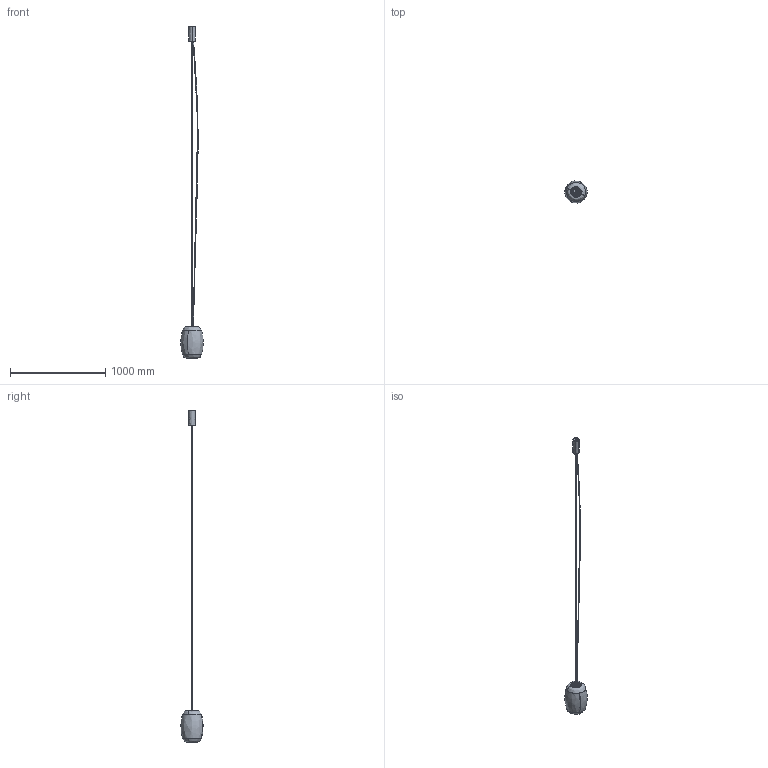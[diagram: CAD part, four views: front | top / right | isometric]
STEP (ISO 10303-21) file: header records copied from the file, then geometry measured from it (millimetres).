
FILE_DESCRIPTION(/* description */ (''),/* implementation_level */ '2;1');
FILE_NAME(/* name */ 'L181__.033',/* time_stamp */ '2025-05-16T09:45:47+02:00',/* author */ (''),/* organization */ (''),/* preprocessor_version */ 'ST-DEVELOPER v16.5',/* originating_system */ '',/* authorisation */ '');
FILE_SCHEMA (('AUTOMOTIVE_DESIGN'));
Products named in the file (60): Document; socket countersunk head screw_iso_ISO 10642 - M3 x 16 - 16N; Blocco 77; 5402.0001000.00 (fune ACC 19 fili D 1,2mm con cilindro terminale 3x3m
m)_5402.0001300.00; Blocco 76; 3200.00881000.00 (piattello chiusura ACC Ø 102mm sp 2)_3201.08810
02.00; Blocco 58; 2100.0044000.00 (equilibratore vetro Ø 90mm H 9mm)_2100.0044001.0
0; 3300.0533000.00 (distanziale circolare con asola equilibratore ALL Ø
 40mm sp 3mm)_3301.0533000.00; Blocco 80; 4504.0031000.00 (Grano EI M6 PC Steab 5068-03-6011)_4504.0031000.00; Blocco 71; 3300.0535000.00 (disco centraggio equilibratore ALL Ø 69mm sp 3mm
)_3305.0535001.00; Blocco 54; 3300.0536000.00 (vite equilibratore OTTONE Ø 10mm H 16mm con file
ttata M5)_3307.0536000.00; Blocco 70; 3300.0534000.00 (disco equilibratore per vetro ALL Ø 90mm sp 3mm)
_3307.0534000.00; Blocco 60; Cavo alimentazione; Blocco 02; 3300.0537000.00 (tubo sospensione OTTONE Ø 6mm sp 1)_3307.0537013.
00; Blocco 55; socket countersunk head screw_iso_ISO 10642 - M3 x 8 - 8N; Blocco 03; 3300.0116000.00 (testa cilindrica ALL D 101mm H 10mm)_3306.0116003.00; Blocco 72; 3300.0121000.00 (piattello di chiusura ALL D 64mm sp 1,2)_Rev.01_3305.
0121002.00; Blocco 67; 4504.0011000.00 (bloccacavo cilindrico D est. 10,5mm D int. 6,5mm NY-
PA bianco Steab 5176-16+vite metrica TCIL I M4x10 NY-PA bianco Steab 5
074-10-4-15_4504.0011000.00; 4504.0009000.00 (bloccacavo cilindrico D est. 10,5mm D int. 6,5mm NY-
PA bianco Steab 5176-16)_4504.0009000.00; Blocco 79; 4504.0010000.00 (vite metrica TCIL I M4 NY-PA Steab 5074)_4504.001001
0.00; Blocco 64; 5401.0001000.00 (molla a filo conica ACC INOX AISI 302-LL D 9,5mm sp 
0,6)_5401.0001000.00 compressa; Blocco 75; 5208.0002000.00 (magnete tondo con foro svasato M3 ACC D 15mm)_5208.0
002003.00; Blocco 68; 3100.0112000.00 (schermo anello PMMA Ø est. 100,4mm Ø int. 48
mm sp 3)_3101.0112000.00; Blocco 78; 3500.0033000.00 (schermo ovale VETRO sp 7 con decoro molato)_3512.003
3033.00 ...
Assembly tree (69 placements, depth 4):
  Document
    socket countersunk head screw_iso_ISO 10642 - M3 x 16 - 16N  x3
      Blocco 77
    5402.0001000.00 (fune ACC 19 fili D 1,2mm con cilindro terminale 3x3m
m)_5402.0001300.00
      Blocco 76
    3200.00881000.00 (piattello chiusura ACC Ø 102mm sp 2)_3201.08810
02.00
      Blocco 58
    2100.0044000.00 (equilibratore vetro Ø 90mm H 9mm)_2100.0044001.0
0
      3300.0533000.00 (distanziale circolare con asola equilibratore ALL Ø
 40mm sp 3mm)_3301.0533000.00
        Blocco 80
      4504.0031000.00 (Grano EI M6 PC Steab 5068-03-6011)_4504.0031000.00  x3
        Blocco 71
      3300.0535000.00 (disco centraggio equilibratore ALL Ø 69mm sp 3mm
)_3305.0535001.00
        Blocco 54
      3300.0536000.00 (vite equilibratore OTTONE Ø 10mm H 16mm con file
ttata M5)_3307.0536000.00
        Blocco 70
      3300.0534000.00 (disco equilibratore per vetro ALL Ø 90mm sp 3mm)
_3307.0534000.00
        Blocco 60
    Cavo alimentazione
      Blocco 02
    3300.0537000.00 (tubo sospensione OTTONE Ø 6mm sp 1)_3307.0537013.
00
      Blocco 55
    socket countersunk head screw_iso_ISO 10642 - M3 x 8 - 8N  x3
      Blocco 03
    3300.0116000.00 (testa cilindrica ALL D 101mm H 10mm)_3306.0116003.00
      Blocco 72
    3300.0121000.00 (piattello di chiusura ALL D 64mm sp 1,2)_Rev.01_3305.
0121002.00
      Blocco 67
    4504.0011000.00 (bloccacavo cilindrico D est. 10,5mm D int. 6,5mm NY-
PA bianco Steab 5176-16+vite metrica TCIL I M4x10 NY-PA bianco Steab 5
074-10-4-15_4504.0011000.00
      4504.0009000.00 (bloccacavo cilindrico D est. 10,5mm D int. 6,5mm NY-
PA bianco Steab 5176-16)_4504.0009000.00
        Blocco 79
      4504.0010000.00 (vite metrica TCIL I M4 NY-PA Steab 5074)_4504.001001
0.00
        Blocco 64
    5401.0001000.00 (molla a filo conica ACC INOX AISI 302-LL D 9,5mm sp 
0,6)_5401.0001000.00 compressa  x2
      Blocco 75
    5208.0002000.00 (magnete tondo con foro svasato M3 ACC D 15mm)_5208.0
002003.00  x3
      Blocco 68
    3100.0112000.00 (schermo anello PMMA Ø est. 100,4mm Ø int. 48
mm sp 3)_3101.0112000.00
      Blocco 78
    3500.0033000.00 (schermo ovale VETRO sp 7 con decoro molato)_3512.003
3033.00
      Blocco 73
    3200.0877000.00 (staffa rosone ACC Ø 60,7mm H 160,7mm sp 1,2)_321
0.0877002.00
      3200.0880000.00 (testata rosone 2 fori ACC Ø 60,7mm sp 1,2)_3201.
0876000.00
        Blocco 63
      3200.0875000.00 (staffa rosone ACC 60x55,8x161,7mm sp 1,2)_3209.08750
16.00
        Blocco 66
    4504.0004000.00 (passacavo D int. 5,9mm L 10,5mm Steab 5101)_4504.000
4000.00
      Blocco 56
    socket set screw cone point_iso_ISO 4027 - M4 x 8-N  x2
      Blocco 01
    5200.0002000.00 (dispositivo regolazione fune OTTONE nichelato con in
nesto maschio M10 L 14mm)_5200.0002000.00
      Blocco 49
      Blocco 50
      Blocco 51
    sheet metal screws_din_Tapping screw DIN 7049-ST2.9x6.5-F-H-S
      Blocco 69
    5205.0001010.00 (raccordo fresato OTTONE D 12mm sp 3 gambo H 10mm M10
x1 Sacla 13501)_5205.0001010.00
      Blocco 62
    3300.0530000.00 (tubo rosone ALL Ø 65mm sp 2)_3306.0530016.00
      Blocco 61
Bounding box: 235.9 x 234.04 x 3487.9 mm (x, y, z)
Surface area: 729039.2 mm2 (no closed solid volume)
Topology: 0 solids, 1410 shells, 1410 faces, 7100 edges, 7080 vertices
Faces by surface type: bspline 985, plane 425
Entity records: 112001 total; most frequent: CARTESIAN_POINT 80888, ORIENTED_EDGE 6072, EDGE_CURVE 6072, VERTEX_POINT 6072, B_SPLINE_CURVE_WITH_KNOTS 2894, EDGE_LOOP 1351, PRESENTATION_LAYER_ASSIGNMENT 1176, SHELL_BASED_SURFACE_MODEL 1176
